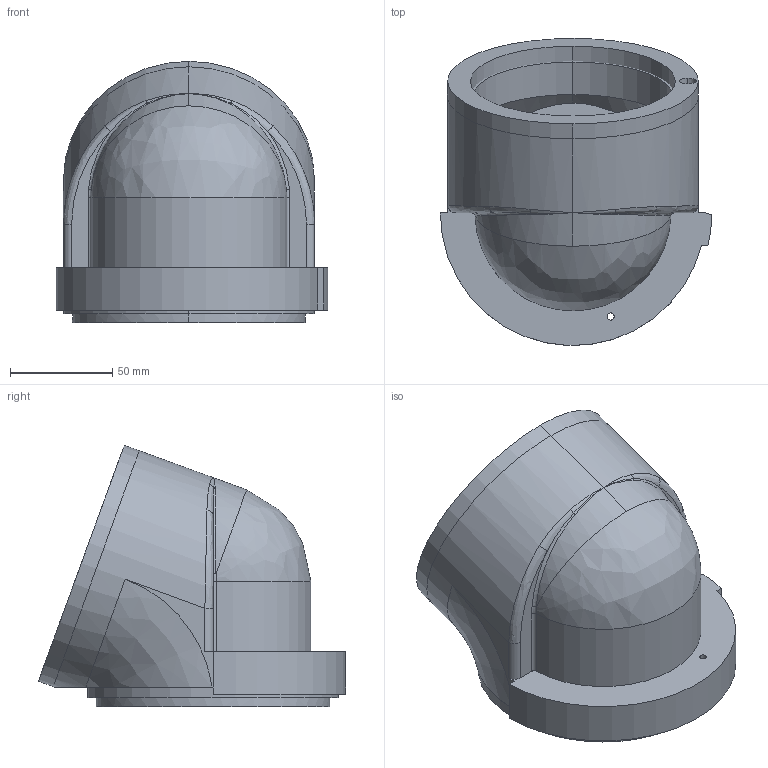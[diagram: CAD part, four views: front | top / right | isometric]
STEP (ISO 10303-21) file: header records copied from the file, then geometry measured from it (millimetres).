
FILE_DESCRIPTION (( 'STEP AP214' ), '1' );
FILE_NAME ('P-50iB WRIST Wrist Knuckle5.STEP', '2021-02-18T02:14:38', ( '' ), ( '' ), 'SwSTEP 2.0', 'SolidWorks 2019', '' );
FILE_SCHEMA (( 'AUTOMOTIVE_DESIGN' ));
Length unit declared in the file: inch
Products named in the file (1): P-50iB WRIST Wrist Knuckle5
Bounding box: 132.99 x 150.53 x 128.08 mm (x, y, z)
Surface area: 103941.4 mm2 (no closed solid volume)
Topology: 0 solids, 2 shells, 87 faces, 244 edges, 155 vertices
Faces by surface type: cylinder 40, plane 25, bspline 20, cone 2
Entity records: 6885 total; most frequent: CARTESIAN_POINT 4668, ORIENTED_EDGE 460, DIRECTION 342, EDGE_CURVE 238, VERTEX_POINT 155, AXIS2_PLACEMENT_3D 131, EDGE_LOOP 98, B_SPLINE_CURVE_WITH_KNOTS 91
